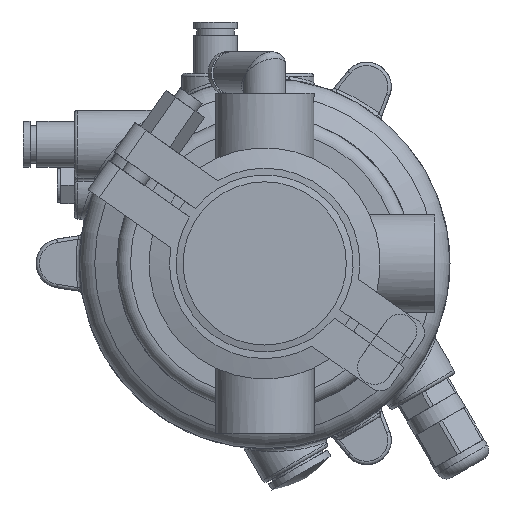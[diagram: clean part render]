
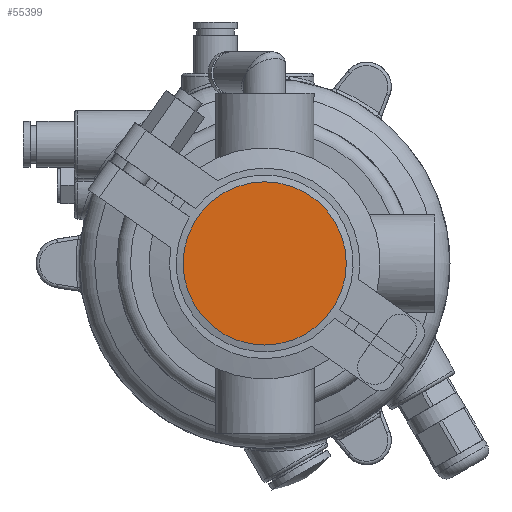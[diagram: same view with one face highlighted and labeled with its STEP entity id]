
A CAD part, front view. The second image highlights one B-rep face of the part: STEP entity #55399.
In plain terms, the highlighted planar face has unit normal (0, -1, 0).
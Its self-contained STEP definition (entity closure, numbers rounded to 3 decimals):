
#3760 = DIRECTION ( 'NONE',  ( 0., 0., -1. ) ) ;
#5966 = EDGE_CURVE ( 'NONE', #10049, #10049, #32529, .T. ) ;
#10049 = VERTEX_POINT ( 'NONE', #28647 ) ;
#16293 = DIRECTION ( 'NONE',  ( 0., 1., 0. ) ) ;
#17834 = FACE_OUTER_BOUND ( 'NONE', #34176, .T. ) ;
#22125 = PLANE ( 'NONE',  #48634 ) ;
#28647 = CARTESIAN_POINT ( 'NONE',  ( 0., 0., 24. ) ) ;
#32529 = CIRCLE ( 'NONE', #43258, 24. ) ;
#34176 = EDGE_LOOP ( 'NONE', ( #43678 ) ) ;
#34897 = DIRECTION ( 'NONE',  ( 0., 0., 1. ) ) ;
#43258 = AXIS2_PLACEMENT_3D ( 'NONE', #43468, #16293, #34897 ) ;
#43468 = CARTESIAN_POINT ( 'NONE',  ( 0., 0., 0. ) ) ;
#43678 = ORIENTED_EDGE ( 'NONE', *, *, #5966, .F. ) ;
#48634 = AXIS2_PLACEMENT_3D ( 'NONE', #55118, #50215, #3760 ) ;
#50215 = DIRECTION ( 'NONE',  ( 0., -1., 0. ) ) ;
#55118 = CARTESIAN_POINT ( 'NONE',  ( -24., 0., 0. ) ) ;
#55399 = ADVANCED_FACE ( 'NONE', ( #17834 ), #22125, .T. ) ;
